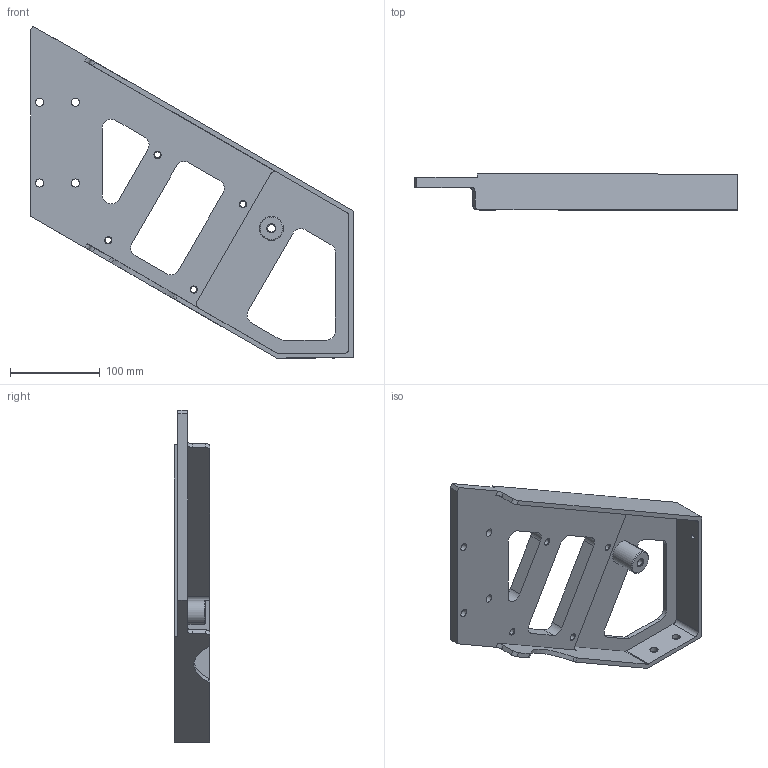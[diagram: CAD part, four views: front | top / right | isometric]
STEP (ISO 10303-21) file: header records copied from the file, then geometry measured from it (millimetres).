
FILE_DESCRIPTION (( 'STEP AP214' ), '1' );
FILE_NAME ('ﾂﾘﾀﾅ.301343.015 ﾊ煇鳫.STEP', '2024-04-17T12:37:23', ( '' ), ( '' ), 'SwSTEP 2.0', 'SolidWorks 2019', '' );
FILE_SCHEMA (( 'AUTOMOTIVE_DESIGN' ));
Length unit declared in the file: millimetre
Products named in the file (3): ﾂﾘﾀﾅ.301343.015 ﾊ煇鳫; ﾂﾘﾀﾅ.741642.002 ﾊ煇鳫; 贅斃.713361.002 鎗鵻罻
Assembly tree (2 placements, depth 2):
  ﾂﾘﾀﾅ.301343.015 ﾊ煇鳫
    贅斃.713361.002 鎗鵻罻
    ﾂﾘﾀﾅ.741642.002 ﾊ煇鳫
Bounding box: 360.18 x 40 x 370.48 mm (x, y, z)
Volume: 728175.3 mm3; surface area: 190393.2 mm2
Topology: 2 solids, 2 shells, 107 faces, 288 edges, 186 vertices
Faces by surface type: cylinder 54, plane 35, cone 18
Entity records: 3690 total; most frequent: DIRECTION 638, CARTESIAN_POINT 586, ORIENTED_EDGE 576, EDGE_CURVE 288, AXIS2_PLACEMENT_3D 238, VERTEX_POINT 186, VECTOR 162, LINE 162
